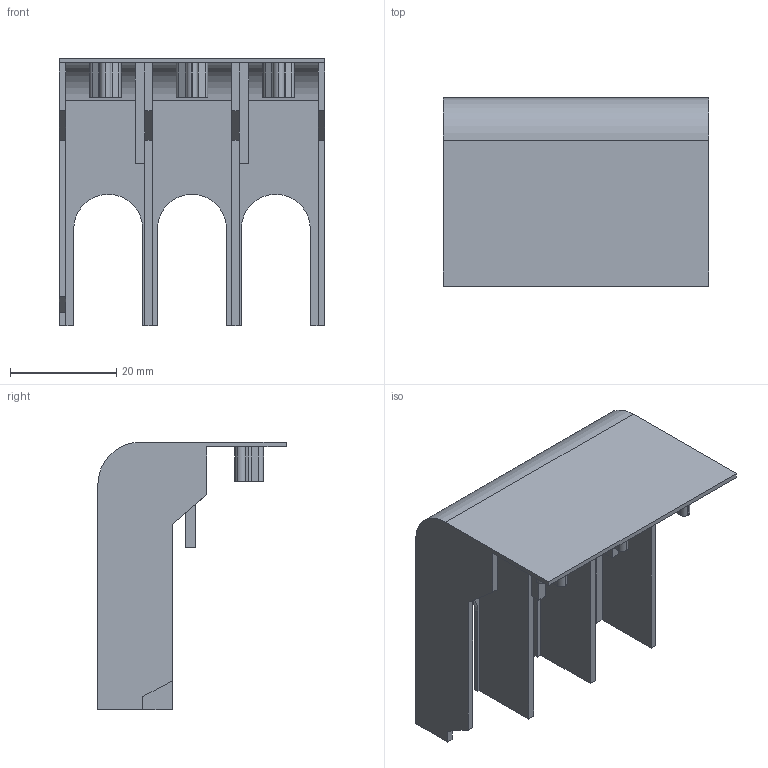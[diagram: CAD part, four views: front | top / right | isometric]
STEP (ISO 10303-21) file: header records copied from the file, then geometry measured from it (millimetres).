
FILE_DESCRIPTION (( 'STEP AP203' ), '1' );
FILE_NAME ('Êðûøêà êëåììíàÿ äëÿ ÷åòâåðòîãî ïîëþñà OptiSwitch DI-80-125 (äëÿ OptiSwitch DI-80-125-3_âåðõíÿÿ).STEP', '2023-03-26T20:37:35', ( 'Ïîëüçîâàòåëü' ), ( '' ), 'SwSTEP 2.0', 'SolidWorks 2018', '' );
FILE_SCHEMA (( 'CONFIG_CONTROL_DESIGN' ));
Length unit declared in the file: millimetre
Products named in the file (2): Êðûøêà êëåììíàÿ äëÿ ÷åòâåðòîãî ïîëþñà OptiSwitch DI-80-125 (äëÿ OptiSwitch DI-80-125-3_âåðõíÿÿ); Êðûøêà êëåììíàÿ OptiSwitch DI-80-125
Assembly tree (1 placements, depth 2):
  Êðûøêà êëåììíàÿ äëÿ ÷åòâåðòîãî ïîëþñà OptiSwitch DI-80-125 (äëÿ OptiSwitch DI-80-125-3_âåðõíÿÿ)
    Êðûøêà êëåììíàÿ OptiSwitch DI-80-125
Bounding box: 50 x 35.5 x 50.5 mm (x, y, z)
Volume: 7031.6 mm3; surface area: 12967.5 mm2
Topology: 1 solids, 1 shells, 115 faces, 326 edges, 216 vertices
Faces by surface type: plane 81, cylinder 34
Entity records: 3912 total; most frequent: CARTESIAN_POINT 661, ORIENTED_EDGE 652, DIRECTION 632, EDGE_CURVE 326, VECTOR 258, LINE 258, VERTEX_POINT 216, AXIS2_PLACEMENT_3D 187
